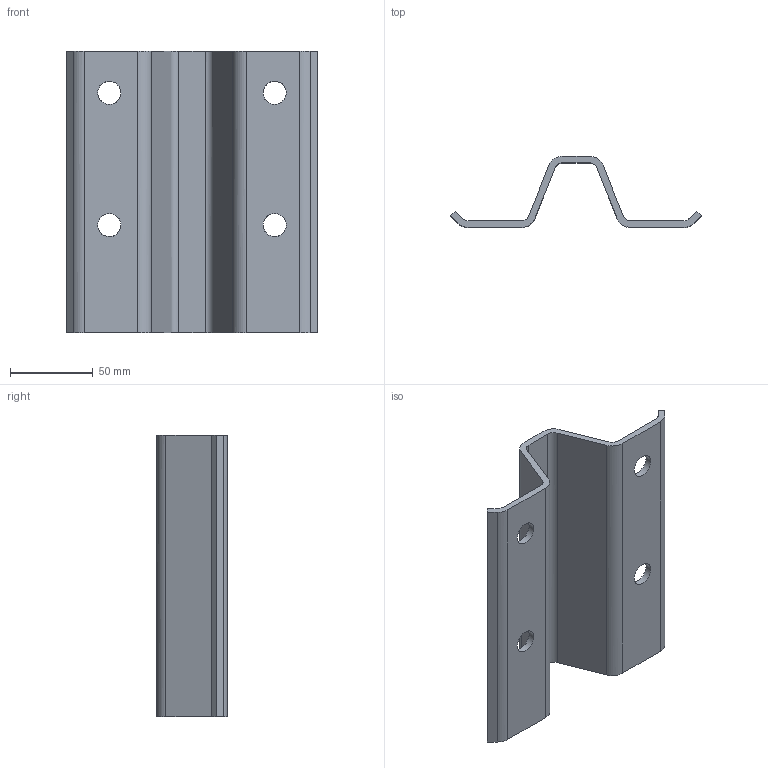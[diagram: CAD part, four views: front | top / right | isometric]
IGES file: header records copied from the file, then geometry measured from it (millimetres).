
Global section: file name: ZC200; native system: Autodesk RealDWG; preprocessor: Autodesk Translation Framework DWG producer (atf_dwg_producer); organization: unknown; date: 20230703.111657; units: centimetre
Bounding box: 151.72 x 43 x 170 mm (x, y, z)
Volume: 134776.8 mm3; surface area: 71067.3 mm2
Topology: 1 solids, 1 shells, 34 faces, 104 edges, 72 vertices
Faces by surface type: bspline 34
